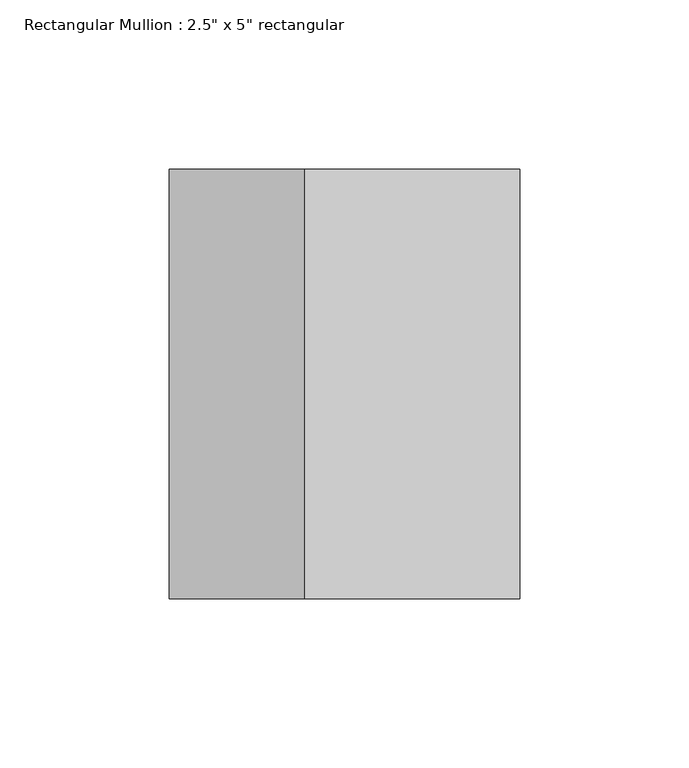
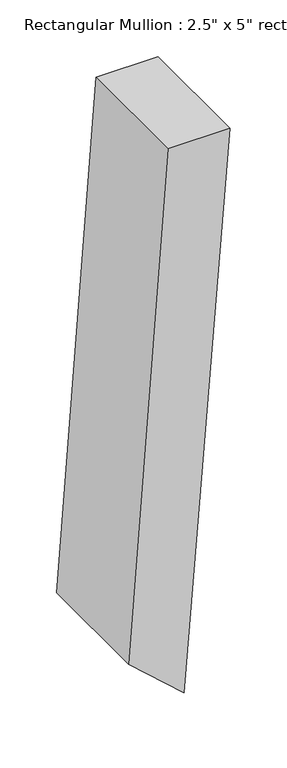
"""IFC4 building model written with IfcOpenShell, lengths in millimetres: member geometry."""

from ifc_helpers import new_model, si_unit, point, frame, frame_2d, origin, place, context, project, spatial, polyline, circle_curve, trimmed, segment, composite_curve, outline, extrude, source, transform, mapped, element, save


def member_016b66e3(model_context):
    return source(origin(), model_context, "Body", "SweptSolid", [
        extrude(outline(composite_curve([segment(trimmed(circle_curve(frame_2d((0.0, -3722.1588985)), 3722.1588985), [point((-591.5597958, -47.3087147))], [point((0.0, 0.0))], False, "CARTESIAN"), True, "CONTINUOUS"), segment(polyline([(0.0, 0.0), (0.0, -63.5)]), True, "CONTINUOUS"), segment(trimmed(circle_curve(frame_2d((0.0, -3722.1588985)), 3658.6588985), [point((0.0, -63.5))], [point((-540.7621834, -103.6839163))], True, "CARTESIAN"), True, "CONTINUOUS"), segment(polyline([(-540.7621834, -103.6839163), (-591.5597958, -47.3087147)]), True, "CONTINUOUS")], self_intersect=False)), frame((0.0, -63.5, 0.0), z_axis=(0.0, 1.0, 0.0), x_axis=(0.0, 0.0, 1.0)), (0.0, 0.0, 1.0), 127.0),
    ])


if __name__ == "__main__":
    model = new_model("IFC4")
    model_context = context("Model", 3, world=origin())
    ifc_project = project(units=[si_unit("LENGTHUNIT", "METRE", prefix="MILLI")], contexts=[model_context])
    site = spatial("IfcSite", under=ifc_project)
    building = spatial("IfcBuilding", under=site)
    placement = place(None, origin())
    member_shape = member_016b66e3(model_context)
    element("IfcMember", 1, ObjectType="Rectangular Mullion : 2.5\" x 5\" rectangular", at=placement, inside=building, context=model_context, shape_type="MappedRepresentation", body=[
        mapped(member_shape, transform((0.0, 0.0, 0.0), x_axis=(1.0, 0.0, 0.0), y_axis=(0.0, 1.0, 0.0), z_axis=(0.0, 0.0, 1.0))),
    ])
    save(model, "model.ifc")
